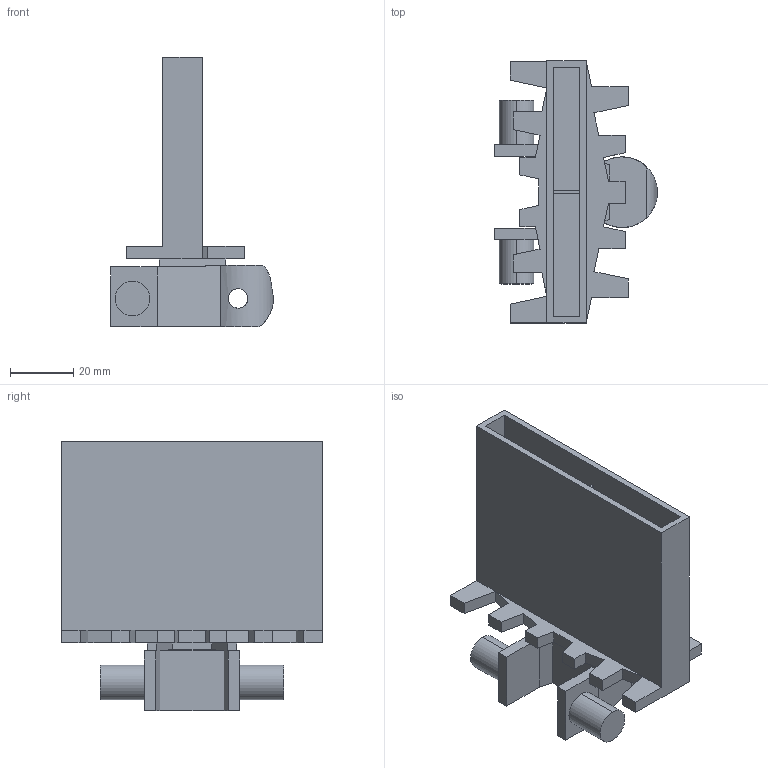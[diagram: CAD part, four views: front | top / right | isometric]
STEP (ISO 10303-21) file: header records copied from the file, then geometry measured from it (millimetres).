
FILE_DESCRIPTION (( 'STEP AP214' ), '1' );
FILE_NAME ('FMCT-5D-H60-P.STEP', '2011-09-28T08:27:59', ( '.' ), ( '' ), 'SwSTEP 2.0', 'SolidWorks 2010', '' );
FILE_SCHEMA (( 'AUTOMOTIVE_DESIGN' ));
Length unit declared in the file: millimetre
Products named in the file (1): FMCT-5D-H60-P
Bounding box: 51.65 x 83 x 85.5 mm (x, y, z)
Volume: 48867.9 mm3; surface area: 34916.1 mm2
Topology: 1 solids, 1 shells, 105 faces, 289 edges, 189 vertices
Faces by surface type: plane 95, cylinder 10
Entity records: 3441 total; most frequent: CARTESIAN_POINT 744, ORIENTED_EDGE 578, DIRECTION 503, EDGE_CURVE 289, VECTOR 267, LINE 267, VERTEX_POINT 189, AXIS2_PLACEMENT_3D 118
